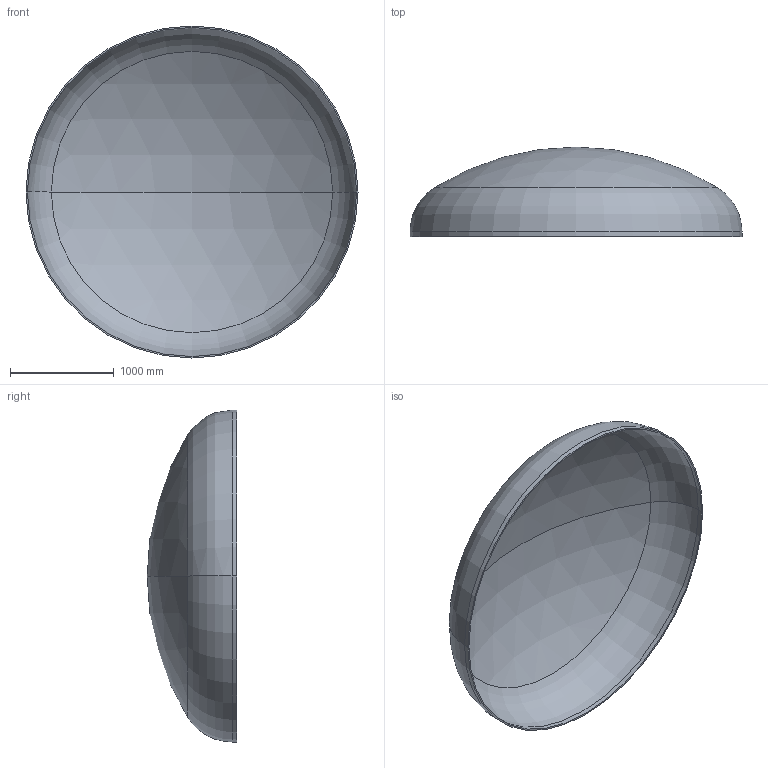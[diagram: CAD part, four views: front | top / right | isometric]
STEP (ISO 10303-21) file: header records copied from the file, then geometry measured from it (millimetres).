
FILE_DESCRIPTION (( 'STEP AP203' ), '1' );
FILE_NAME ('DIN 28013 Korbbogenform_-_Boden DIN 28013 - 3200 x 45 - I - s=14.step', '2016-07-01T18:20:22', ( '' ), ( '' ), 'SwSTEP 2.0', 'SolidWorks 2013', '' );
FILE_SCHEMA (( 'CONFIG_CONTROL_DESIGN' ));
Length unit declared in the file: millimetre
Products named in the file (1): DIN 28013 Korbbogenform_-_Boden DIN 28013 - 3200 x 45 - I - s=14
Bounding box: 3200 x 862.96 x 3200 mm (x, y, z)
Volume: 161183921.4 mm3; surface area: 23166803.4 mm2
Topology: 1 solids, 1 shells, 13 faces, 24 edges, 14 vertices
Faces by surface type: torus 4, cylinder 4, sphere 4, plane 1
Entity records: 407 total; most frequent: DIRECTION 72, CARTESIAN_POINT 52, ORIENTED_EDGE 48, AXIS2_PLACEMENT_3D 34, EDGE_CURVE 24, CIRCLE 20, EDGE_LOOP 14, VERTEX_POINT 14
